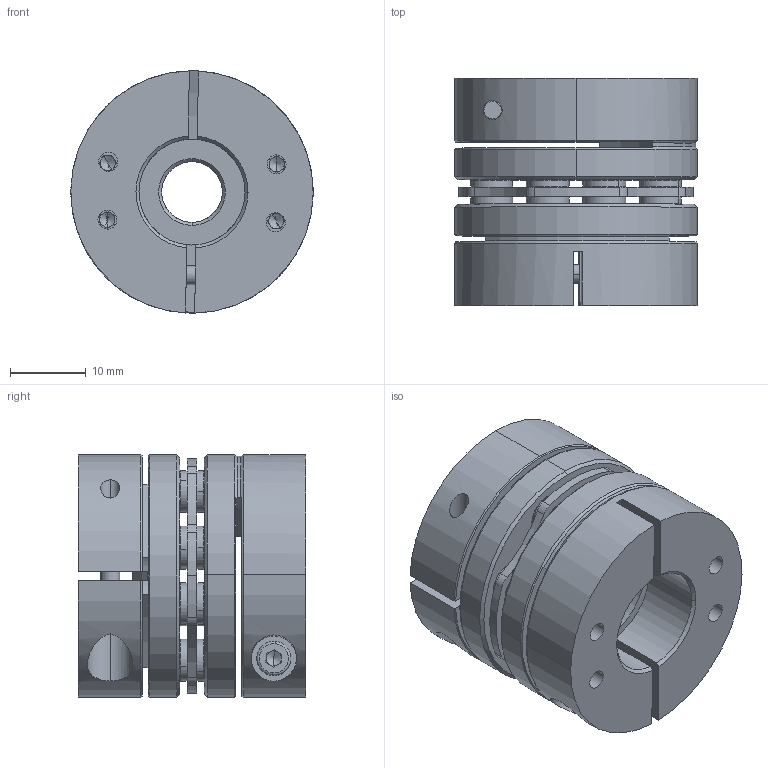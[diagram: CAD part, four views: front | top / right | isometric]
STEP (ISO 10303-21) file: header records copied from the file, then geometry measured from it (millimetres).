
FILE_DESCRIPTION (( 'STEP AP203' ), '1' );
FILE_NAME ('LDG-32-B1-8-14.STEP', '2021-10-28T05:12:57', ( '' ), ( '' ), 'SwSTEP 2.0', 'SolidWorks 2018', '' );
FILE_SCHEMA (( 'CONFIG_CONTROL_DESIGN' ));
Length unit declared in the file: millimetre
Products named in the file (2): 錨璃5^LDG-32蚾饜芞1; LDG-32-B1-8-14
Assembly tree (1 placements, depth 2):
  LDG-32-B1-8-14
    錨璃5^LDG-32蚾饜芞1
Bounding box: 32 x 30 x 32 mm (x, y, z)
Volume: 17274.8 mm3; surface area: 13096.4 mm2
Topology: 1 solids, 11 shells, 795 faces, 1967 edges, 1216 vertices
Faces by surface type: cylinder 301, plane 244, cone 230, torus 20
Entity records: 24191 total; most frequent: CARTESIAN_POINT 4472, DIRECTION 4465, ORIENTED_EDGE 3878, EDGE_CURVE 1939, AXIS2_PLACEMENT_3D 1819, VERTEX_POINT 1216, CIRCLE 1020, EDGE_LOOP 939
